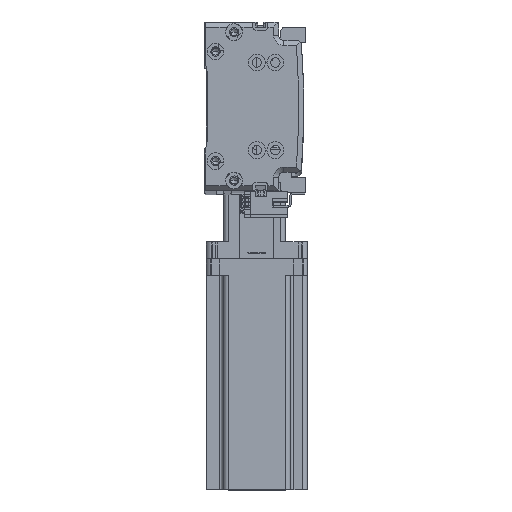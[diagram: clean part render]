
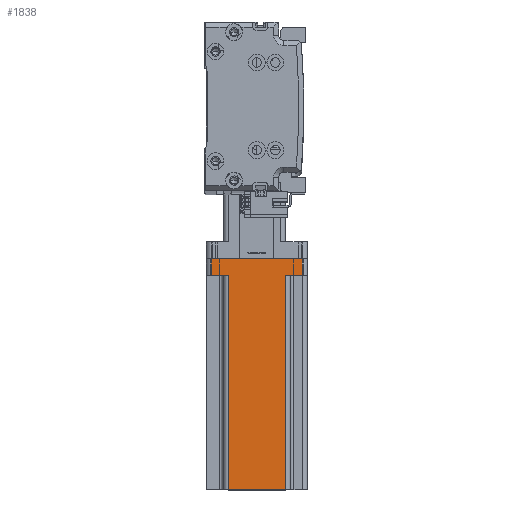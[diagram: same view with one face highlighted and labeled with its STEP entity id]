
A CAD part, top view. The second image highlights one B-rep face of the part: STEP entity #1838.
In plain terms, the highlighted planar face has unit normal (0, 0, 1) as drawn and (0, 1, 0) by its records, which use the part's own axes.
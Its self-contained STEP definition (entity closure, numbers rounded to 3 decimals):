
#24 = DIRECTION ( 'NONE',  ( 0., -1., 0. ) ) ;
#211 = CARTESIAN_POINT ( 'NONE',  ( 30., 30., 137. ) ) ;
#1010 = CARTESIAN_POINT ( 'NONE',  ( -17., 30., 10. ) ) ;
#1838 = ADVANCED_FACE ( 'NONE', ( #2996 ), #8467, .F. ) ;
#2199 = CARTESIAN_POINT ( 'NONE',  ( 17., 30., 10. ) ) ;
#2996 = FACE_OUTER_BOUND ( 'NONE', #6306, .T. ) ;
#3465 = ORIENTED_EDGE ( 'NONE', *, *, #5014, .T. ) ;
#3703 = VERTEX_POINT ( 'NONE', #42040 ) ;
#5014 = EDGE_CURVE ( 'NONE', #34548, #44702, #39997, .T. ) ;
#5450 = EDGE_CURVE ( 'NONE', #29711, #40405, #51235, .T. ) ;
#6306 = EDGE_LOOP ( 'NONE', ( #32065, #27811, #46962, #22737, #49470, #19450, #3465, #48891 ) ) ;
#6506 = LINE ( 'NONE', #50610, #51836 ) ;
#6580 = VECTOR ( 'NONE', #12327, 1000. ) ;
#8043 = CARTESIAN_POINT ( 'NONE',  ( 27., 30., 137. ) ) ;
#8467 = PLANE ( 'NONE',  #44135 ) ;
#10966 = EDGE_CURVE ( 'NONE', #3703, #34548, #29187, .T. ) ;
#11020 = LINE ( 'NONE', #39970, #31002 ) ;
#11956 = VERTEX_POINT ( 'NONE', #2199 ) ;
#12327 = DIRECTION ( 'NONE',  ( 0., 0., -1. ) ) ;
#15518 = VECTOR ( 'NONE', #20306, 1000. ) ;
#16028 = CARTESIAN_POINT ( 'NONE',  ( 20., 30., 10. ) ) ;
#16082 = VERTEX_POINT ( 'NONE', #1010 ) ;
#17709 = EDGE_CURVE ( 'NONE', #29711, #11956, #19385, .T. ) ;
#18255 = LINE ( 'NONE', #30556, #29586 ) ;
#18675 = DIRECTION ( 'NONE',  ( 0., 0., 1. ) ) ;
#19385 = LINE ( 'NONE', #27175, #40783 ) ;
#19450 = ORIENTED_EDGE ( 'NONE', *, *, #10966, .T. ) ;
#20306 = DIRECTION ( 'NONE',  ( -1., 0., 0. ) ) ;
#20691 = DIRECTION ( 'NONE',  ( 0., 0., 1. ) ) ;
#21626 = EDGE_CURVE ( 'NONE', #54294, #16082, #18255, .T. ) ;
#22737 = ORIENTED_EDGE ( 'NONE', *, *, #17709, .T. ) ;
#24606 = CARTESIAN_POINT ( 'NONE',  ( -17., 30., 137. ) ) ;
#27175 = CARTESIAN_POINT ( 'NONE',  ( 17., 30., 137. ) ) ;
#27811 = ORIENTED_EDGE ( 'NONE', *, *, #38826, .T. ) ;
#27939 = DIRECTION ( 'NONE',  ( -1., 0., 0. ) ) ;
#28041 = CARTESIAN_POINT ( 'NONE',  ( 30., 30., 0. ) ) ;
#29187 = LINE ( 'NONE', #8043, #6580 ) ;
#29586 = VECTOR ( 'NONE', #51849, 1000. ) ;
#29711 = VERTEX_POINT ( 'NONE', #52711 ) ;
#30556 = CARTESIAN_POINT ( 'NONE',  ( -20., 30., 10. ) ) ;
#31002 = VECTOR ( 'NONE', #18675, 1000. ) ;
#31489 = DIRECTION ( 'NONE',  ( 0., 0., -1. ) ) ;
#31684 = EDGE_CURVE ( 'NONE', #44702, #54294, #11020, .T. ) ;
#32065 = ORIENTED_EDGE ( 'NONE', *, *, #21626, .T. ) ;
#34548 = VERTEX_POINT ( 'NONE', #41227 ) ;
#38548 = VECTOR ( 'NONE', #27939, 1000. ) ;
#38826 = EDGE_CURVE ( 'NONE', #16082, #40405, #6506, .T. ) ;
#39716 = CARTESIAN_POINT ( 'NONE',  ( -27., 30., 0. ) ) ;
#39970 = CARTESIAN_POINT ( 'NONE',  ( -27., 30., 137. ) ) ;
#39997 = LINE ( 'NONE', #28041, #50015 ) ;
#40405 = VERTEX_POINT ( 'NONE', #24606 ) ;
#40497 = CARTESIAN_POINT ( 'NONE',  ( 30., 30., 137. ) ) ;
#40783 = VECTOR ( 'NONE', #31489, 1000. ) ;
#40960 = DIRECTION ( 'NONE',  ( -1., 0., 0. ) ) ;
#41227 = CARTESIAN_POINT ( 'NONE',  ( 27., 30., 0. ) ) ;
#41383 = CARTESIAN_POINT ( 'NONE',  ( -27., 30., 10. ) ) ;
#42040 = CARTESIAN_POINT ( 'NONE',  ( 27., 30., 10. ) ) ;
#44135 = AXIS2_PLACEMENT_3D ( 'NONE', #211, #24, #54482 ) ;
#44702 = VERTEX_POINT ( 'NONE', #39716 ) ;
#46962 = ORIENTED_EDGE ( 'NONE', *, *, #5450, .F. ) ;
#48891 = ORIENTED_EDGE ( 'NONE', *, *, #31684, .T. ) ;
#49470 = ORIENTED_EDGE ( 'NONE', *, *, #52062, .F. ) ;
#49590 = LINE ( 'NONE', #16028, #15518 ) ;
#50015 = VECTOR ( 'NONE', #40960, 1000. ) ;
#50610 = CARTESIAN_POINT ( 'NONE',  ( -17., 30., 137. ) ) ;
#51235 = LINE ( 'NONE', #40497, #38548 ) ;
#51836 = VECTOR ( 'NONE', #20691, 1000. ) ;
#51849 = DIRECTION ( 'NONE',  ( 1., 0., 0. ) ) ;
#52062 = EDGE_CURVE ( 'NONE', #3703, #11956, #49590, .T. ) ;
#52711 = CARTESIAN_POINT ( 'NONE',  ( 17., 30., 137. ) ) ;
#54294 = VERTEX_POINT ( 'NONE', #41383 ) ;
#54482 = DIRECTION ( 'NONE',  ( 1., 0., 0. ) ) ;
